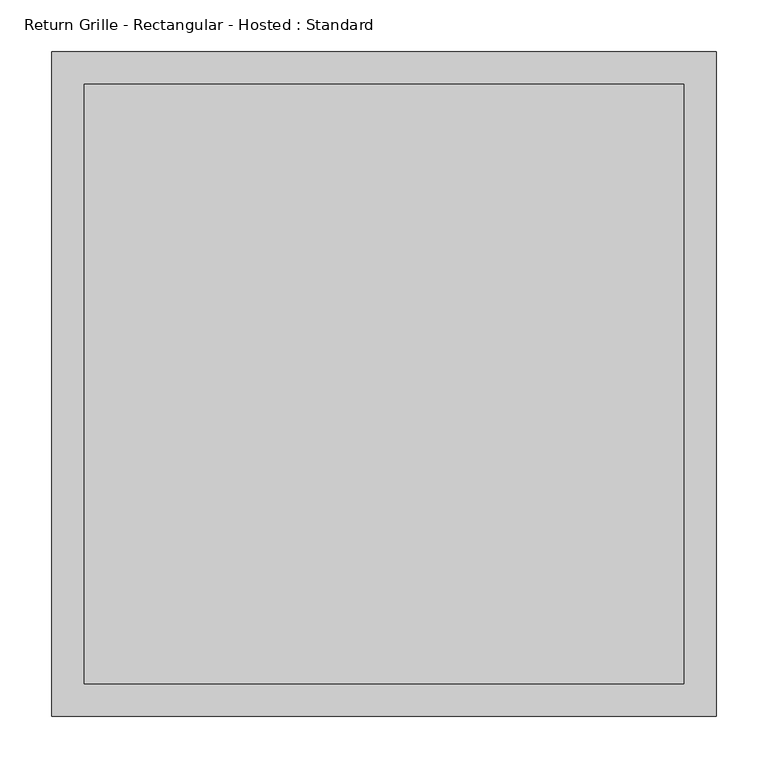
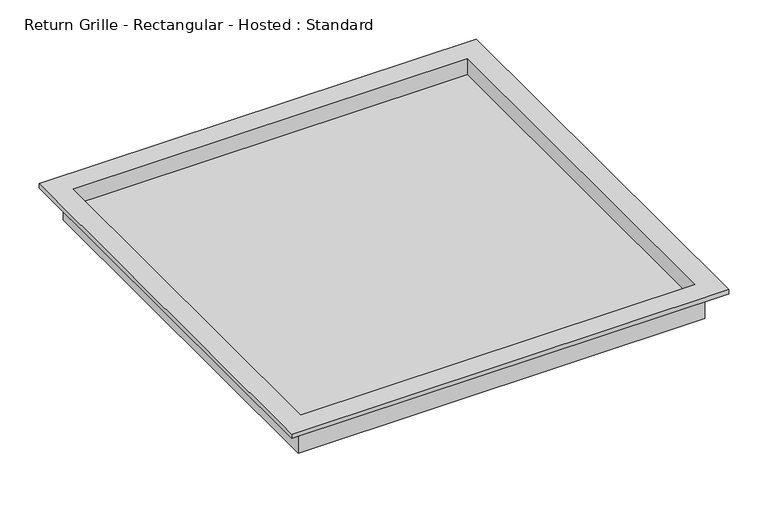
"""IFC4 building model written with IfcOpenShell, lengths in millimetres: air terminal geometry, Return Grille - Rectangular - Hosted : Standard."""

from ifc_helpers import new_model, si_unit, origin, place, context, project, spatial, faceted_brep, source, transform, mapped, element, save


def return_grille_rectangular_hosted_standard_7b12617c(model_context):
    return source(origin(), model_context, "Body", "Brep", [
        faceted_brep([(322.5, 322.5, 6.35), (-322.5, 322.5, 6.35), (-322.5, -322.5, 6.35), (322.5, -322.5, 6.35), (-290.75, 290.75, 6.35), (290.75, 290.75, 6.35), (290.75, -290.75, 6.35), (-290.75, -290.75, 6.35), (322.5, 322.5, 0.0), (322.5, -322.5, 0.0), (-322.5, -322.5, 0.0), (-322.5, 322.5, 0.0), (300.0, 300.0, 0.0), (-300.0, 300.0, 0.0), (-300.0, -300.0, 0.0), (300.0, -300.0, 0.0), (300.0, 300.0, -44.45), (300.0, -300.0, -44.45), (-300.0, -300.0, -44.45), (-300.0, 300.0, -44.45), (290.75, 290.75, -19.05), (-290.75, 290.75, -19.05), (-290.75, -290.75, -19.05), (290.75, -290.75, -19.05)], [[[0, 1, 2, 3], [4, 5, 6, 7]], [[8, 9, 10, 11], [12, 13, 14, 15]], [[1, 0, 8, 11]], [[2, 1, 11, 10]], [[3, 2, 10, 9]], [[0, 3, 9, 8]], [[16, 17, 18, 19]], [[16, 19, 13, 12]], [[19, 18, 14, 13]], [[18, 17, 15, 14]], [[17, 16, 12, 15]], [[20, 21, 22, 23]], [[21, 20, 5, 4]], [[22, 21, 4, 7]], [[23, 22, 7, 6]], [[20, 23, 6, 5]]]),
    ])


if __name__ == "__main__":
    model = new_model("IFC4")
    model_context = context("Model", 3, world=origin())
    ifc_project = project(units=[si_unit("LENGTHUNIT", "METRE", prefix="MILLI")], contexts=[model_context])
    site = spatial("IfcSite", under=ifc_project)
    building = spatial("IfcBuilding", under=site)
    placement = place(None, origin())
    return_grille_rectangular_hosted_standard_shape = return_grille_rectangular_hosted_standard_7b12617c(model_context)
    element("IfcAirTerminal", 1, ObjectType="Return Grille - Rectangular - Hosted : Standard", at=placement, inside=building, context=model_context, shape_type="MappedRepresentation", body=[
        mapped(return_grille_rectangular_hosted_standard_shape, transform((0.0, 0.0, 0.0), x_axis=(1.0, 0.0, 0.0), y_axis=(0.0, 1.0, 0.0), z_axis=(0.0, 0.0, 1.0))),
    ])
    save(model, "model.ifc")
